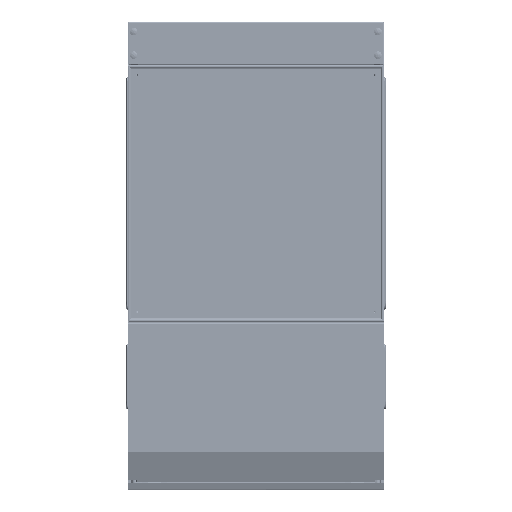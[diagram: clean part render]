
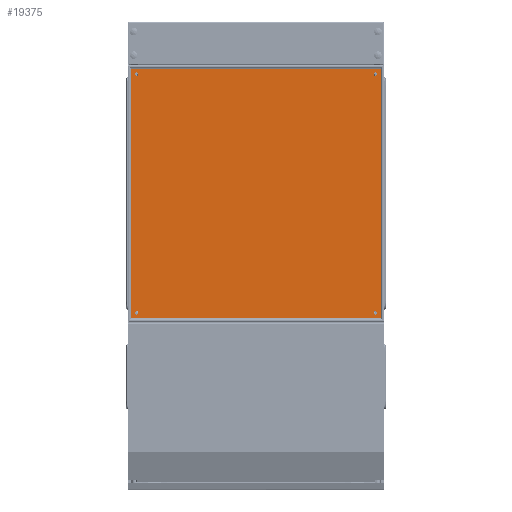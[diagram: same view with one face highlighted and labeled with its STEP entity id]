
A CAD part, front view. The second image highlights one B-rep face of the part: STEP entity #19375.
In plain terms, the highlighted planar face has unit normal (0, -1, 0).
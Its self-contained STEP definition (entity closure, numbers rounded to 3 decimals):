
#101 = FACE_BOUND ( 'NONE', #112909, .T. ) ;
#896 = CARTESIAN_POINT ( 'NONE',  ( -279., -1.5, 279. ) ) ;
#1746 = VECTOR ( 'NONE', #190436, 1000. ) ;
#1969 = CIRCLE ( 'NONE', #102562, 4. ) ;
#4813 = LINE ( 'NONE', #134063, #202947 ) ;
#10207 = FACE_BOUND ( 'NONE', #115272, .T. ) ;
#12622 = AXIS2_PLACEMENT_3D ( 'NONE', #168908, #118991, #18029 ) ;
#18029 = DIRECTION ( 'NONE',  ( 0., 0., 1. ) ) ;
#19375 = ADVANCED_FACE ( 'NONE', ( #101, #147806, #126397, #10207, #160056 ), #191495, .F. ) ;
#21472 = DIRECTION ( 'NONE',  ( 0., -1., 0. ) ) ;
#21887 = EDGE_CURVE ( 'NONE', #144618, #144618, #107647, .T. ) ;
#27981 = AXIS2_PLACEMENT_3D ( 'NONE', #162257, #193751, #47174 ) ;
#36281 = VERTEX_POINT ( 'NONE', #198075 ) ;
#38837 = EDGE_CURVE ( 'NONE', #130182, #130182, #99265, .T. ) ;
#38870 = LINE ( 'NONE', #121417, #151220 ) ;
#39925 = ORIENTED_EDGE ( 'NONE', *, *, #21887, .F. ) ;
#47174 = DIRECTION ( 'NONE',  ( 0., 0., 1. ) ) ;
#54101 = CARTESIAN_POINT ( 'NONE',  ( 291.5, -1.5, -291.5 ) ) ;
#61898 = VERTEX_POINT ( 'NONE', #112951 ) ;
#66465 = EDGE_CURVE ( 'NONE', #160339, #93791, #38870, .T. ) ;
#66736 = DIRECTION ( 'NONE',  ( 0., 0., -1. ) ) ;
#73997 = CARTESIAN_POINT ( 'NONE',  ( 291.5, -1.5, 291.5 ) ) ;
#76437 = CARTESIAN_POINT ( 'NONE',  ( 291.5, -1.5, 291.5 ) ) ;
#84049 = ORIENTED_EDGE ( 'NONE', *, *, #149274, .F. ) ;
#86643 = ORIENTED_EDGE ( 'NONE', *, *, #189077, .F. ) ;
#87168 = EDGE_LOOP ( 'NONE', ( #194256 ) ) ;
#91642 = DIRECTION ( 'NONE',  ( 0., 1., 0. ) ) ;
#91877 = VERTEX_POINT ( 'NONE', #54101 ) ;
#93791 = VERTEX_POINT ( 'NONE', #212177 ) ;
#96109 = ORIENTED_EDGE ( 'NONE', *, *, #210911, .F. ) ;
#99265 = CIRCLE ( 'NONE', #12622, 4. ) ;
#102562 = AXIS2_PLACEMENT_3D ( 'NONE', #211743, #113027, #109789 ) ;
#107647 = CIRCLE ( 'NONE', #27981, 4. ) ;
#109789 = DIRECTION ( 'NONE',  ( 0., 0., 1. ) ) ;
#110227 = AXIS2_PLACEMENT_3D ( 'NONE', #76437, #91642, #161126 ) ;
#112909 = EDGE_LOOP ( 'NONE', ( #39925 ) ) ;
#112951 = CARTESIAN_POINT ( 'NONE',  ( -279., -1.5, 283. ) ) ;
#113027 = DIRECTION ( 'NONE',  ( 0., -1., 0. ) ) ;
#115272 = EDGE_LOOP ( 'NONE', ( #84049 ) ) ;
#118991 = DIRECTION ( 'NONE',  ( 0., -1., 0. ) ) ;
#121417 = CARTESIAN_POINT ( 'NONE',  ( -291.5, -1.5, -291.5 ) ) ;
#124244 = CARTESIAN_POINT ( 'NONE',  ( -291.5, -1.5, -291.5 ) ) ;
#126397 = FACE_BOUND ( 'NONE', #87168, .T. ) ;
#127143 = EDGE_CURVE ( 'NONE', #91877, #160339, #194732, .T. ) ;
#128313 = CARTESIAN_POINT ( 'NONE',  ( -279., -1.5, -275. ) ) ;
#130182 = VERTEX_POINT ( 'NONE', #176888 ) ;
#130418 = ORIENTED_EDGE ( 'NONE', *, *, #66465, .F. ) ;
#132934 = CARTESIAN_POINT ( 'NONE',  ( -291.5, -1.5, -291.5 ) ) ;
#133359 = DIRECTION ( 'NONE',  ( 0., 0., 1. ) ) ;
#134063 = CARTESIAN_POINT ( 'NONE',  ( 291.5, -1.5, -291.5 ) ) ;
#136160 = VECTOR ( 'NONE', #173115, 1000. ) ;
#143448 = EDGE_LOOP ( 'NONE', ( #96109, #86643, #130418, #177876 ) ) ;
#143801 = CARTESIAN_POINT ( 'NONE',  ( -291.5, -1.5, 291.5 ) ) ;
#144350 = EDGE_LOOP ( 'NONE', ( #185405 ) ) ;
#144618 = VERTEX_POINT ( 'NONE', #128313 ) ;
#147806 = FACE_BOUND ( 'NONE', #144350, .T. ) ;
#148559 = VERTEX_POINT ( 'NONE', #73997 ) ;
#149274 = EDGE_CURVE ( 'NONE', #61898, #61898, #153821, .T. ) ;
#151220 = VECTOR ( 'NONE', #155068, 1000. ) ;
#153821 = CIRCLE ( 'NONE', #171149, 4. ) ;
#155068 = DIRECTION ( 'NONE',  ( 0., 0., 1. ) ) ;
#159006 = LINE ( 'NONE', #143801, #136160 ) ;
#160056 = FACE_OUTER_BOUND ( 'NONE', #143448, .T. ) ;
#160339 = VERTEX_POINT ( 'NONE', #132934 ) ;
#161126 = DIRECTION ( 'NONE',  ( 0., 0., 1. ) ) ;
#162257 = CARTESIAN_POINT ( 'NONE',  ( -279., -1.5, -279. ) ) ;
#168908 = CARTESIAN_POINT ( 'NONE',  ( 279., -1.5, -279. ) ) ;
#171149 = AXIS2_PLACEMENT_3D ( 'NONE', #896, #21472, #133359 ) ;
#173115 = DIRECTION ( 'NONE',  ( 1., 0., 0. ) ) ;
#176888 = CARTESIAN_POINT ( 'NONE',  ( 279., -1.5, -275. ) ) ;
#177876 = ORIENTED_EDGE ( 'NONE', *, *, #127143, .F. ) ;
#185405 = ORIENTED_EDGE ( 'NONE', *, *, #38837, .F. ) ;
#189077 = EDGE_CURVE ( 'NONE', #93791, #148559, #159006, .T. ) ;
#190436 = DIRECTION ( 'NONE',  ( -1., 0., 0. ) ) ;
#191495 = PLANE ( 'NONE',  #110227 ) ;
#193751 = DIRECTION ( 'NONE',  ( 0., -1., 0. ) ) ;
#194256 = ORIENTED_EDGE ( 'NONE', *, *, #211813, .F. ) ;
#194732 = LINE ( 'NONE', #124244, #1746 ) ;
#198075 = CARTESIAN_POINT ( 'NONE',  ( 279., -1.5, 283. ) ) ;
#202947 = VECTOR ( 'NONE', #66736, 1000. ) ;
#210911 = EDGE_CURVE ( 'NONE', #148559, #91877, #4813, .T. ) ;
#211743 = CARTESIAN_POINT ( 'NONE',  ( 279., -1.5, 279. ) ) ;
#211813 = EDGE_CURVE ( 'NONE', #36281, #36281, #1969, .T. ) ;
#212177 = CARTESIAN_POINT ( 'NONE',  ( -291.5, -1.5, 291.5 ) ) ;
